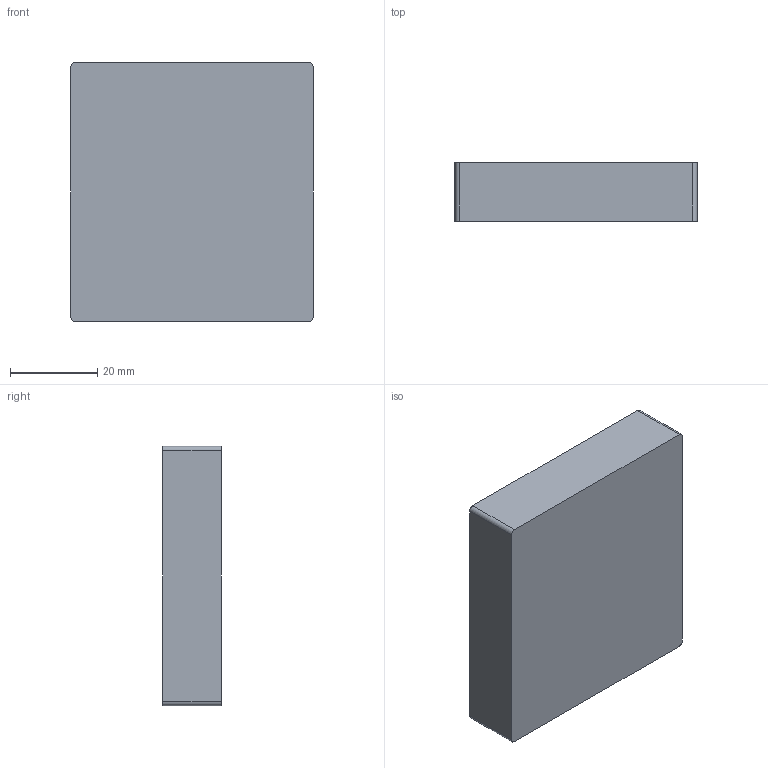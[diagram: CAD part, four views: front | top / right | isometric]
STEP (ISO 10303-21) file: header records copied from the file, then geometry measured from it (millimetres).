
FILE_DESCRIPTION(('Open CASCADE Model'),'2;1');
FILE_NAME('Open CASCADE Shape Model','2026-09-29T12:47:59',('Author'),( 'Open CASCADE'),'Open CASCADE STEP processor 7.9','Open CASCADE 7.9' ,'Unknown');
FILE_SCHEMA(('AUTOMOTIVE_DESIGN { 1 0 10303 214 1 1 1 1 }'));
Length unit declared in the file: millimetre
Products named in the file (1): Open CASCADE STEP translator 7.9 15
Bounding box: 55.4 x 13.5 x 59.4 mm (x, y, z)
Volume: 44413.7 mm3; surface area: 9656.2 mm2
Topology: 1 solids, 1 shells, 10 faces, 24 edges, 16 vertices
Faces by surface type: plane 6, cylinder 4
Entity records: 630 total; most frequent: CARTESIAN_POINT 123, DIRECTION 98, LINE 56, VECTOR 56, ORIENTED_EDGE 48, PCURVE 48, DEFINITIONAL_REPRESENTATION 48, EDGE_CURVE 24
